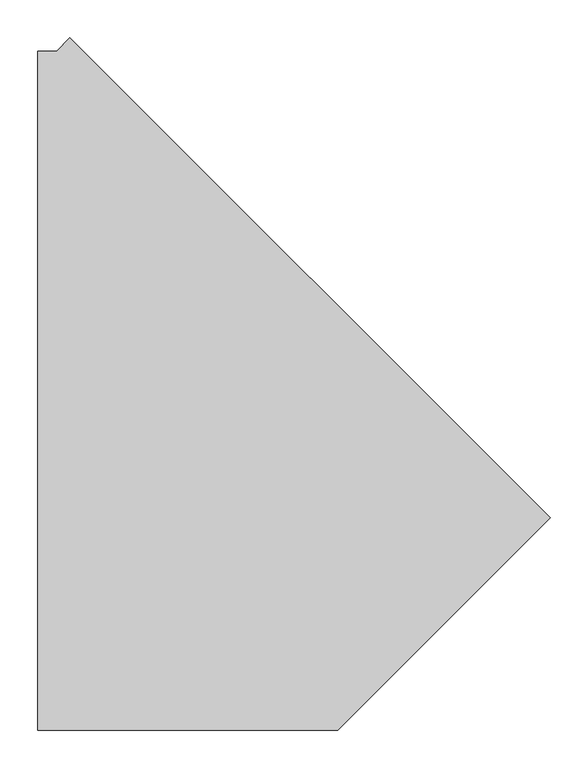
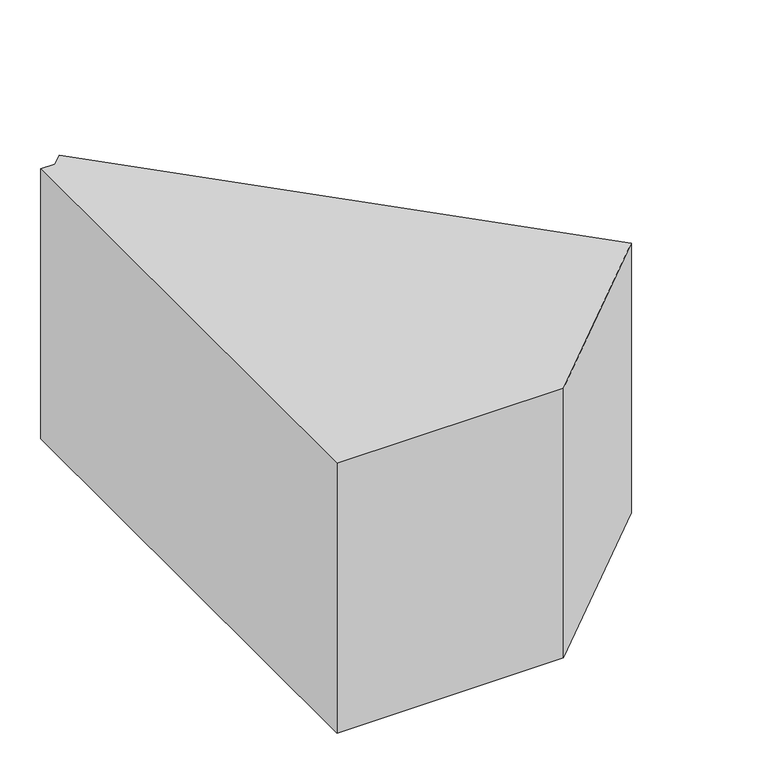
"""IFC4 building model written with IfcOpenShell, lengths in millimetres: duct fitting geometry, 2017_Codo_Climaver_Codo-Rectangular-Biselado : Codo_Rectangular_Biselado_Climaver."""

from ifc_helpers import new_model, si_unit, frame, origin, place, context, project, spatial, polyline, outline, extrude, source, transform, mapped, element, save


def duct_fitting_f8bcbdbf(model_context):
    return source(origin(), model_context, "Body", "SweptSolid", [
        extrude(outline(polyline([(-211.3961031, -450.0), (-211.3961031, 450.0), (-186.3961031, 450.0), (-168.7184335, 467.6776695), (467.6776695, -168.7184335), (186.3961031, -450.0), (-211.3961031, -450.0)])), frame((0.0, 0.0, -250.0), z_axis=(0.0, 0.0, 1.0), x_axis=(1.0, 0.0, 0.0)), (0.0, 0.0, 1.0), 500.0),
    ])


if __name__ == "__main__":
    model = new_model("IFC4")
    model_context = context("Model", 3, world=origin())
    ifc_project = project(units=[si_unit("LENGTHUNIT", "METRE", prefix="MILLI")], contexts=[model_context])
    site = spatial("IfcSite", under=ifc_project)
    building = spatial("IfcBuilding", under=site)
    placement = place(None, origin())
    duct_fitting_shape = duct_fitting_f8bcbdbf(model_context)
    element("IfcDuctFitting", 1, ObjectType="2017_Codo_Climaver_Codo-Rectangular-Biselado : Codo_Rectangular_Biselado_Climaver", at=placement, inside=building, context=model_context, shape_type="MappedRepresentation", body=[
        mapped(duct_fitting_shape, transform((0.0, 0.0, 0.0), x_axis=(1.0, 0.0, 0.0), y_axis=(0.0, 1.0, 0.0), z_axis=(0.0, 0.0, 1.0))),
    ])
    save(model, "model.ifc")
